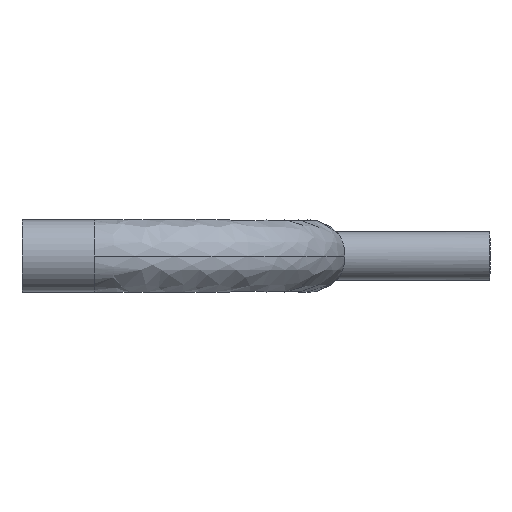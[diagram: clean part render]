
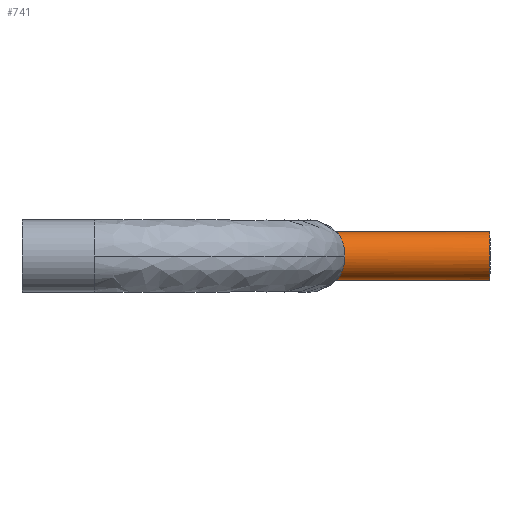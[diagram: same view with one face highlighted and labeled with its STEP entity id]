
A CAD part, left-side view. The second image highlights one B-rep face of the part: STEP entity #741.
In plain terms, the highlighted cylindrical face has radius 6.35 mm (diameter 12.7 mm), a partial arc.
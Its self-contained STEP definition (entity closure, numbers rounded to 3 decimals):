
#1 = AXIS2_PLACEMENT_3D ( 'NONE', #270, #701, #687 ) ;
#36 = EDGE_CURVE ( 'NONE', #581, #135, #559, .T. ) ;
#44 = ORIENTED_EDGE ( 'NONE', *, *, #451, .T. ) ;
#74 = ORIENTED_EDGE ( 'NONE', *, *, #36, .F. ) ;
#77 = ORIENTED_EDGE ( 'NONE', *, *, #798, .F. ) ;
#83 = DIRECTION ( 'NONE',  ( 0., -1., 0. ) ) ;
#86 = ORIENTED_EDGE ( 'NONE', *, *, #731, .F. ) ;
#134 = CARTESIAN_POINT ( 'NONE',  ( 0., -7.1, -6.35 ) ) ;
#135 = VERTEX_POINT ( 'NONE', #696 ) ;
#137 = CARTESIAN_POINT ( 'NONE',  ( -0.432, -7.1, -6.35 ) ) ;
#138 = CARTESIAN_POINT ( 'NONE',  ( -0.853, -7.135, -6.306 ) ) ;
#146 = CARTESIAN_POINT ( 'NONE',  ( -1.677, -7.263, -6.139 ) ) ;
#155 = CARTESIAN_POINT ( 'NONE',  ( -2.083, -7.358, -6.013 ) ) ;
#157 = CARTESIAN_POINT ( 'NONE',  ( -2.843, -7.578, -5.693 ) ) ;
#188 = CARTESIAN_POINT ( 'NONE',  ( -3.881, -7.971, -5.043 ) ) ;
#191 = CARTESIAN_POINT ( 'NONE',  ( -4.193, -8.108, -4.786 ) ) ;
#195 = CARTESIAN_POINT ( 'NONE',  ( -4.623, -8.308, -4.358 ) ) ;
#200 = CARTESIAN_POINT ( 'NONE',  ( 0., -7.1, -6.35 ) ) ;
#206 = DIRECTION ( 'NONE',  ( 0., 1., 0. ) ) ;
#209 = CARTESIAN_POINT ( 'NONE',  ( -4.76, -8.374, -4.208 ) ) ;
#244 = CARTESIAN_POINT ( 'NONE',  ( -5.021, -8.503, -3.893 ) ) ;
#249 = CARTESIAN_POINT ( 'NONE',  ( -5.144, -8.566, -3.728 ) ) ;
#259 = CARTESIAN_POINT ( 'NONE',  ( -5.489, -8.744, -3.22 ) ) ;
#264 = CARTESIAN_POINT ( 'NONE',  ( -3.202, -7.704, -5.499 ) ) ;
#270 = CARTESIAN_POINT ( 'NONE',  ( 0., 500000., 0. ) ) ;
#272 = CARTESIAN_POINT ( 'NONE',  ( -5.685, -8.85, -2.86 ) ) ;
#286 = FACE_OUTER_BOUND ( 'NONE', #507, .T. ) ;
#305 = DIRECTION ( 'NONE',  ( 0., 0., -1. ) ) ;
#306 = B_SPLINE_CURVE_WITH_KNOTS ( 'NONE', 3,
 ( #134, #137, #138, #146, #155, #157, #264, #188, #191, #195, #209, #244, #249, #259, #272, #320, #327, #331, #335, #345 ),
 .UNSPECIFIED., .F., .F.,
 ( 4, 2, 2, 2, 2, 2, 2, 2, 2, 4 ),
 ( -0.01, -0.009, -0.008, -0.006, -0.005, -0.004, -0.004, -0.003, -0.001, 0. ),
 .UNSPECIFIED. ) ;
#320 = CARTESIAN_POINT ( 'NONE',  ( -6.009, -9.028, -2.094 ) ) ;
#327 = CARTESIAN_POINT ( 'NONE',  ( -6.137, -9.101, -1.684 ) ) ;
#331 = CARTESIAN_POINT ( 'NONE',  ( -6.306, -9.197, -0.855 ) ) ;
#335 = CARTESIAN_POINT ( 'NONE',  ( -6.35, -9.222, -0.432 ) ) ;
#340 = CIRCLE ( 'NONE', #750, 6.35 ) ;
#342 = VECTOR ( 'NONE', #83, 1000. ) ;
#345 = CARTESIAN_POINT ( 'NONE',  ( -6.35, -9.222, 0. ) ) ;
#357 = CARTESIAN_POINT ( 'NONE',  ( 0., 500000., 6.35 ) ) ;
#368 = LINE ( 'NONE', #630, #342 ) ;
#372 = CARTESIAN_POINT ( 'NONE',  ( 0., -47.6, -6.35 ) ) ;
#390 = CARTESIAN_POINT ( 'NONE',  ( -6.35, -9.222, 0. ) ) ;
#417 = VERTEX_POINT ( 'NONE', #200 ) ;
#427 = CARTESIAN_POINT ( 'NONE',  ( 0., -7.1, 6.35 ) ) ;
#443 = ORIENTED_EDGE ( 'NONE', *, *, #835, .T. ) ;
#451 = EDGE_CURVE ( 'NONE', #620, #135, #340, .T. ) ;
#458 = DIRECTION ( 'NONE',  ( 0., -1., 0. ) ) ;
#507 = EDGE_LOOP ( 'NONE', ( #74, #86, #77, #443, #44 ) ) ;
#559 = LINE ( 'NONE', #357, #579 ) ;
#579 = VECTOR ( 'NONE', #458, 1000. ) ;
#581 = VERTEX_POINT ( 'NONE', #427 ) ;
#620 = VERTEX_POINT ( 'NONE', #372 ) ;
#630 = CARTESIAN_POINT ( 'NONE',  ( 0., 500000., -6.35 ) ) ;
#651 = B_SPLINE_CURVE_WITH_KNOTS ( 'NONE', 3,
 ( #693, #691, #714, #725, #760, #768, #778, #784, #790, #792, #797, #832, #836, #845, #848, #855, #859, #865, #852, #872 ),
 .UNSPECIFIED., .F., .F.,
 ( 4, 2, 2, 2, 2, 2, 2, 2, 2, 4 ),
 ( 0., 0.001, 0.003, 0.004, 0.005, 0.006, 0.006, 0.008, 0.009, 0.01 ),
 .UNSPECIFIED. ) ;
#681 = CARTESIAN_POINT ( 'NONE',  ( 0., -47.6, 0. ) ) ;
#687 = DIRECTION ( 'NONE',  ( 0., 0., -1. ) ) ;
#691 = CARTESIAN_POINT ( 'NONE',  ( -6.35, -9.222, 0.431 ) ) ;
#693 = CARTESIAN_POINT ( 'NONE',  ( -6.35, -9.222, 0. ) ) ;
#696 = CARTESIAN_POINT ( 'NONE',  ( 0., -47.6, 6.35 ) ) ;
#701 = DIRECTION ( 'NONE',  ( 0., -1., 0. ) ) ;
#714 = CARTESIAN_POINT ( 'NONE',  ( -6.307, -9.197, 0.854 ) ) ;
#725 = CARTESIAN_POINT ( 'NONE',  ( -6.138, -9.101, 1.682 ) ) ;
#731 = EDGE_CURVE ( 'NONE', #805, #581, #651, .T. ) ;
#741 = ADVANCED_FACE ( 'NONE', ( #286 ), #843, .T. ) ;
#750 = AXIS2_PLACEMENT_3D ( 'NONE', #681, #206, #305 ) ;
#760 = CARTESIAN_POINT ( 'NONE',  ( -6.01, -9.029, 2.092 ) ) ;
#768 = CARTESIAN_POINT ( 'NONE',  ( -5.685, -8.85, 2.86 ) ) ;
#778 = CARTESIAN_POINT ( 'NONE',  ( -5.488, -8.743, 3.222 ) ) ;
#784 = CARTESIAN_POINT ( 'NONE',  ( -5.024, -8.504, 3.905 ) ) ;
#790 = CARTESIAN_POINT ( 'NONE',  ( -4.763, -8.374, 4.219 ) ) ;
#792 = CARTESIAN_POINT ( 'NONE',  ( -4.333, -8.173, 4.646 ) ) ;
#797 = CARTESIAN_POINT ( 'NONE',  ( -4.183, -8.105, 4.782 ) ) ;
#798 = EDGE_CURVE ( 'NONE', #417, #805, #306, .T. ) ;
#805 = VERTEX_POINT ( 'NONE', #390 ) ;
#832 = CARTESIAN_POINT ( 'NONE',  ( -3.869, -7.969, 5.04 ) ) ;
#835 = EDGE_CURVE ( 'NONE', #417, #620, #368, .T. ) ;
#836 = CARTESIAN_POINT ( 'NONE',  ( -3.704, -7.901, 5.162 ) ) ;
#843 = CYLINDRICAL_SURFACE ( 'NONE', #1, 6.35 ) ;
#845 = CARTESIAN_POINT ( 'NONE',  ( -3.198, -7.703, 5.501 ) ) ;
#848 = CARTESIAN_POINT ( 'NONE',  ( -2.842, -7.578, 5.693 ) ) ;
#852 = CARTESIAN_POINT ( 'NONE',  ( -0.432, -7.1, 6.35 ) ) ;
#855 = CARTESIAN_POINT ( 'NONE',  ( -2.085, -7.358, 6.012 ) ) ;
#859 = CARTESIAN_POINT ( 'NONE',  ( -1.679, -7.263, 6.139 ) ) ;
#865 = CARTESIAN_POINT ( 'NONE',  ( -0.854, -7.135, 6.306 ) ) ;
#872 = CARTESIAN_POINT ( 'NONE',  ( 0., -7.1, 6.35 ) ) ;
